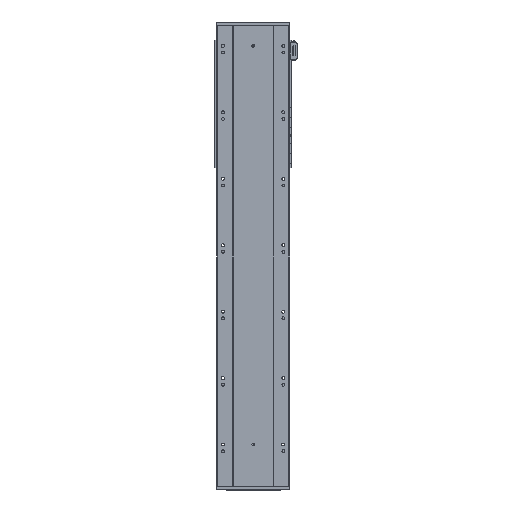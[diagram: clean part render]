
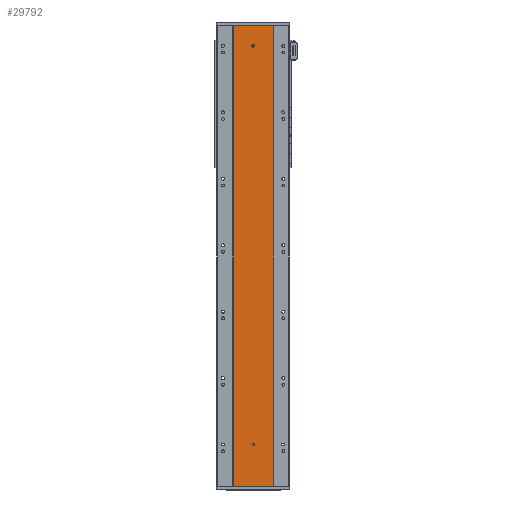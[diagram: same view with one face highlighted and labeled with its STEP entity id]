
A CAD part, front view. The second image highlights one B-rep face of the part: STEP entity #29792.
In plain terms, the highlighted planar face has unit normal (0, -1, 0).
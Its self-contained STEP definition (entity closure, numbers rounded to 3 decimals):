
#162 = EDGE_CURVE ( 'NONE', #34129, #53517, #11681, .T. ) ;
#180 = VERTEX_POINT ( 'NONE', #52292 ) ;
#807 = DIRECTION ( 'NONE',  ( 0., -1., 0. ) ) ;
#2973 = EDGE_CURVE ( 'NONE', #50963, #41714, #7775, .T. ) ;
#3552 = LINE ( 'NONE', #56262, #24261 ) ;
#3932 = CARTESIAN_POINT ( 'NONE',  ( 0., 0., 1325. ) ) ;
#4360 = LINE ( 'NONE', #11247, #31720 ) ;
#5190 = EDGE_CURVE ( 'NONE', #53517, #34129, #13337, .T. ) ;
#5256 = ORIENTED_EDGE ( 'NONE', *, *, #162, .F. ) ;
#6124 = EDGE_LOOP ( 'NONE', ( #50507, #5256 ) ) ;
#6702 = EDGE_CURVE ( 'NONE', #28234, #50963, #3552, .T. ) ;
#7106 = AXIS2_PLACEMENT_3D ( 'NONE', #33478, #807, #38192 ) ;
#7177 = CARTESIAN_POINT ( 'NONE',  ( 0., 0., 121. ) ) ;
#7775 = LINE ( 'NONE', #54060, #55093 ) ;
#8411 = LINE ( 'NONE', #26348, #52772 ) ;
#9145 = FACE_BOUND ( 'NONE', #6124, .T. ) ;
#11001 = EDGE_LOOP ( 'NONE', ( #23974, #23964 ) ) ;
#11247 = CARTESIAN_POINT ( 'NONE',  ( -60., 0., 1385. ) ) ;
#11681 = CIRCLE ( 'NONE', #51396, 4. ) ;
#13337 = CIRCLE ( 'NONE', #18372, 4. ) ;
#14819 = ORIENTED_EDGE ( 'NONE', *, *, #25211, .T. ) ;
#15877 = DIRECTION ( 'NONE',  ( 0., 0., -1. ) ) ;
#17275 = DIRECTION ( 'NONE',  ( 0., 1., 0. ) ) ;
#18372 = AXIS2_PLACEMENT_3D ( 'NONE', #52129, #24059, #37468 ) ;
#19257 = DIRECTION ( 'NONE',  ( 0., -1., 0. ) ) ;
#19377 = CIRCLE ( 'NONE', #7106, 4. ) ;
#23964 = ORIENTED_EDGE ( 'NONE', *, *, #35646, .F. ) ;
#23974 = ORIENTED_EDGE ( 'NONE', *, *, #47400, .F. ) ;
#24059 = DIRECTION ( 'NONE',  ( 0., -1., 0. ) ) ;
#24261 = VECTOR ( 'NONE', #52140, 1000. ) ;
#24631 = CARTESIAN_POINT ( 'NONE',  ( -60., 0., 1385. ) ) ;
#24735 = AXIS2_PLACEMENT_3D ( 'NONE', #3932, #42112, #51642 ) ;
#25153 = VERTEX_POINT ( 'NONE', #26146 ) ;
#25211 = EDGE_CURVE ( 'NONE', #56122, #41714, #8411, .T. ) ;
#26146 = CARTESIAN_POINT ( 'NONE',  ( 0., 0., 1329. ) ) ;
#26348 = CARTESIAN_POINT ( 'NONE',  ( -60., 0., 0. ) ) ;
#28234 = VERTEX_POINT ( 'NONE', #24631 ) ;
#29792 = ADVANCED_FACE ( 'NONE', ( #29863, #9145, #40178 ), #57772, .F. ) ;
#29863 = FACE_BOUND ( 'NONE', #11001, .T. ) ;
#30503 = CARTESIAN_POINT ( 'NONE',  ( -60., 0., 1385. ) ) ;
#31720 = VECTOR ( 'NONE', #44338, 1000. ) ;
#31735 = DIRECTION ( 'NONE',  ( 1., 0., 0. ) ) ;
#31952 = DIRECTION ( 'NONE',  ( 0., 0., 1. ) ) ;
#33108 = DIRECTION ( 'NONE',  ( 0., 0., -1. ) ) ;
#33478 = CARTESIAN_POINT ( 'NONE',  ( 0., 0., 1325. ) ) ;
#34129 = VERTEX_POINT ( 'NONE', #57897 ) ;
#35646 = EDGE_CURVE ( 'NONE', #25153, #180, #51550, .T. ) ;
#37468 = DIRECTION ( 'NONE',  ( 0., 0., -1. ) ) ;
#37539 = CARTESIAN_POINT ( 'NONE',  ( -60., 0., 0. ) ) ;
#38192 = DIRECTION ( 'NONE',  ( 0., 0., -1. ) ) ;
#39367 = ORIENTED_EDGE ( 'NONE', *, *, #42147, .T. ) ;
#39801 = CARTESIAN_POINT ( 'NONE',  ( 60., 0., 0. ) ) ;
#40178 = FACE_OUTER_BOUND ( 'NONE', #44434, .T. ) ;
#40827 = ORIENTED_EDGE ( 'NONE', *, *, #2973, .F. ) ;
#41714 = VERTEX_POINT ( 'NONE', #39801 ) ;
#42112 = DIRECTION ( 'NONE',  ( 0., -1., 0. ) ) ;
#42147 = EDGE_CURVE ( 'NONE', #28234, #56122, #4360, .T. ) ;
#44338 = DIRECTION ( 'NONE',  ( 0., 0., -1. ) ) ;
#44434 = EDGE_LOOP ( 'NONE', ( #14819, #40827, #53309, #39367 ) ) ;
#47400 = EDGE_CURVE ( 'NONE', #180, #25153, #19377, .T. ) ;
#50507 = ORIENTED_EDGE ( 'NONE', *, *, #5190, .F. ) ;
#50963 = VERTEX_POINT ( 'NONE', #57505 ) ;
#51396 = AXIS2_PLACEMENT_3D ( 'NONE', #56612, #19257, #33108 ) ;
#51550 = CIRCLE ( 'NONE', #24735, 4. ) ;
#51642 = DIRECTION ( 'NONE',  ( 0., 0., -1. ) ) ;
#52129 = CARTESIAN_POINT ( 'NONE',  ( 0., 0., 125. ) ) ;
#52140 = DIRECTION ( 'NONE',  ( 1., 0., 0. ) ) ;
#52292 = CARTESIAN_POINT ( 'NONE',  ( 0., 0., 1321. ) ) ;
#52772 = VECTOR ( 'NONE', #31735, 1000. ) ;
#53309 = ORIENTED_EDGE ( 'NONE', *, *, #6702, .F. ) ;
#53517 = VERTEX_POINT ( 'NONE', #7177 ) ;
#54060 = CARTESIAN_POINT ( 'NONE',  ( 60., 0., 1385. ) ) ;
#55093 = VECTOR ( 'NONE', #15877, 1000. ) ;
#56122 = VERTEX_POINT ( 'NONE', #37539 ) ;
#56262 = CARTESIAN_POINT ( 'NONE',  ( -60., 0., 1385. ) ) ;
#56612 = CARTESIAN_POINT ( 'NONE',  ( 0., 0., 125. ) ) ;
#57505 = CARTESIAN_POINT ( 'NONE',  ( 60., 0., 1385. ) ) ;
#57772 = PLANE ( 'NONE',  #60777 ) ;
#57897 = CARTESIAN_POINT ( 'NONE',  ( 0., 0., 129. ) ) ;
#60777 = AXIS2_PLACEMENT_3D ( 'NONE', #30503, #17275, #31952 ) ;
